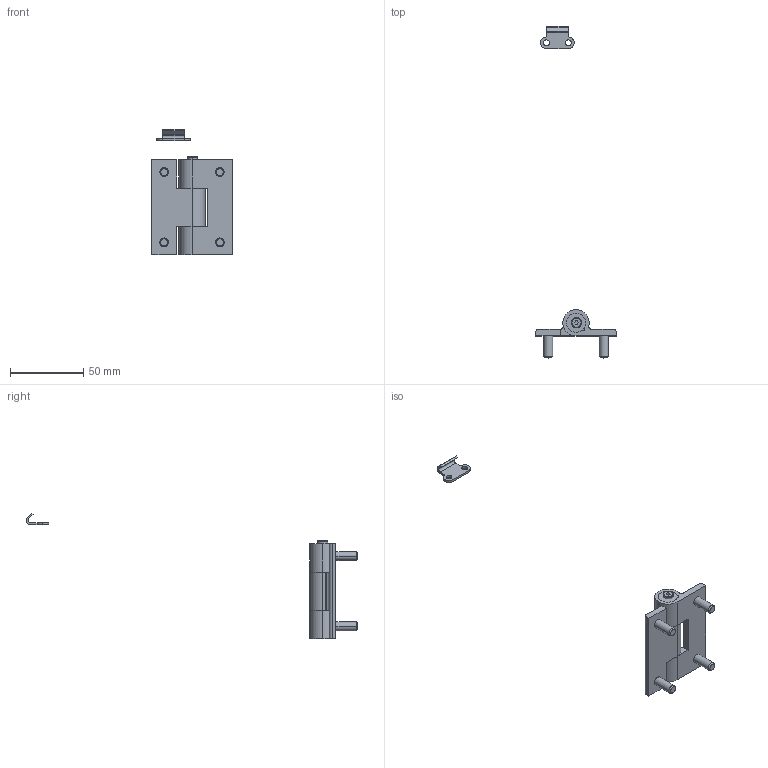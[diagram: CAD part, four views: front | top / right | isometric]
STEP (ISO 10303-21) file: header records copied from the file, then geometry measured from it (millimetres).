
FILE_DESCRIPTION((''),'2;1');
FILE_NAME('6871.05.stp','2014-11-10T16:15:58',(''),(''),'Mechanical Desktop 2006','Mechanical Desktop 2006',', , ');
FILE_SCHEMA(('CONFIG_CONTROL_DESIGN'));
Length unit declared in the file: millimetre
Products named in the file (7): 6871.05.70; GEGENHAKEN14; ~TEIL1; ZYLINDERSCHRAUBE - DIN 7984 - M4 X 25; TEIL1; TEIL2; TEIL3
Assembly tree (6 placements, depth 3):
  6871.05.70
    GEGENHAKEN14
      ~TEIL1
    ZYLINDERSCHRAUBE - DIN 7984 - M4 X 25
    TEIL1
    TEIL2
    TEIL3
Bounding box: 55 x 226.67 x 85.84 mm (x, y, z)
Volume: 30515.5 mm3; surface area: 18340.2 mm2
Topology: 5 solids, 5 shells, 324 faces, 800 edges, 478 vertices
Faces by surface type: cylinder 98, cone 92, torus 80, plane 40, sphere 12, bspline 2
Entity records: 10054 total; most frequent: DIRECTION 1939, CARTESIAN_POINT 1901, ORIENTED_EDGE 1572, AXIS2_PLACEMENT_3D 840, EDGE_CURVE 786, CIRCLE 511, VERTEX_POINT 478, EDGE_LOOP 340
